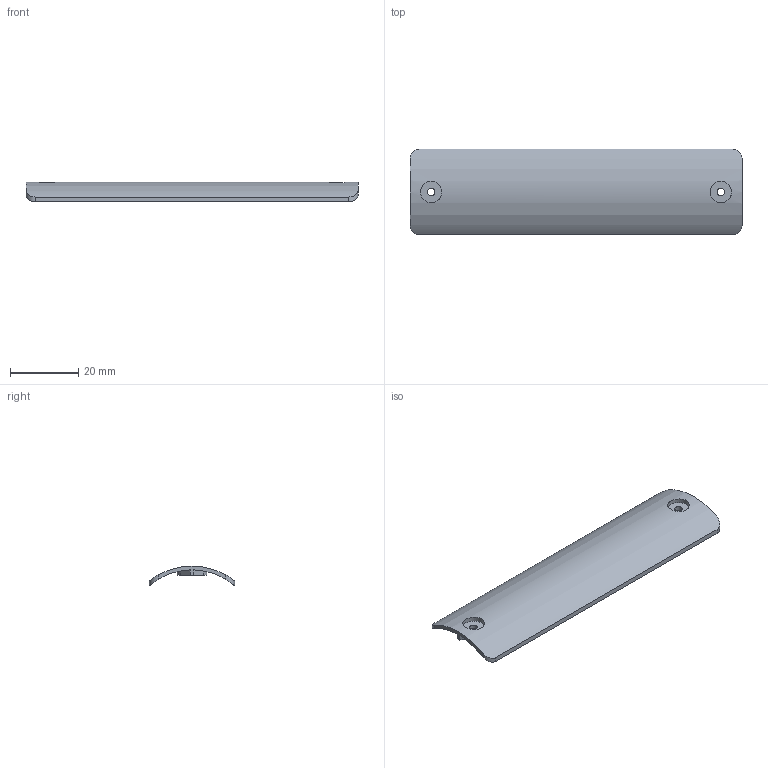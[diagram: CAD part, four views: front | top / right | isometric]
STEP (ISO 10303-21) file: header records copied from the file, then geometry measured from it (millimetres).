
FILE_DESCRIPTION(('SkyG Speed 90B - revision C6B-23 - 2026-10-17','HF-front-hatch'),'2;1');
FILE_NAME('HF-front-hatch_C6B-23','2026-10-17T13:26:41',('Author'),( 'Open CASCADE'),'Open CASCADE STEP processor 7.9','Open CASCADE 7.9' ,'Unknown');
FILE_SCHEMA(('AUTOMOTIVE_DESIGN { 1 0 10303 214 1 1 1 1 }'));
Length unit declared in the file: millimetre
Products named in the file (1): HF-front-hatch C6B-23
Bounding box: 97.4 x 25 x 5.82 mm (x, y, z)
Volume: 3002.3 mm3; surface area: 5743.1 mm2
Topology: 1 solids, 1 shells, 24 faces, 57 edges, 38 vertices
Faces by surface type: cylinder 12, plane 12
Full cylindrical faces by diameter (mm): 2.2 x2, 6.3 x2
Entity records: 2991 total; most frequent: CARTESIAN_POINT 1886, DIRECTION 180, ORIENTED_EDGE 114, PCURVE 114, DEFINITIONAL_REPRESENTATION 114, LINE 81, VECTOR 81, EDGE_CURVE 57
